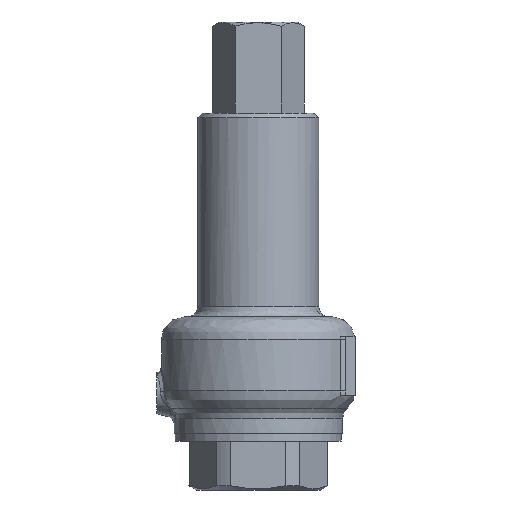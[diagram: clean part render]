
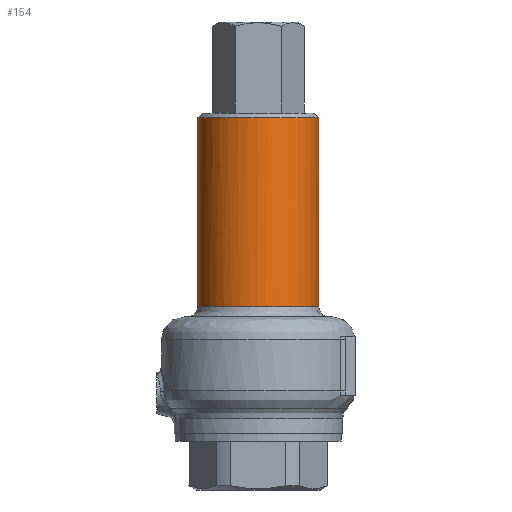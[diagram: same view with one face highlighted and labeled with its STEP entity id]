
A CAD part, left-side view. The second image highlights one B-rep face of the part: STEP entity #154.
In plain terms, the highlighted cylindrical face has radius 26.5 mm (diameter 53 mm), a partial arc.
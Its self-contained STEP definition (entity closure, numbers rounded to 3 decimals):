
#154=ADVANCED_FACE('',(#965),#964,.T.);
#964=CYLINDRICAL_SURFACE('',#2627,26.5);
#965=FACE_OUTER_BOUND('',#2628,.T.);
#2624=CARTESIAN_POINT('',(0.,140.5,0.));
#2625=DIRECTION('',(0.,-1.,0.));
#2626=DIRECTION('',(0.,0.,-1.));
#2627=AXIS2_PLACEMENT_3D('',#2624,#2625,#2626);
#2628=EDGE_LOOP('',(#3177,#3178,#3179,#3180));
#3177=ORIENTED_EDGE('',*,*,#3451,.T.);
#3178=ORIENTED_EDGE('',*,*,#3448,.T.);
#3179=ORIENTED_EDGE('',*,*,#3406,.T.);
#3180=ORIENTED_EDGE('',*,*,#3450,.F.);
#3406=EDGE_CURVE('',#4574,#4567,#4575,.T.);
#3448=EDGE_CURVE('',#4848,#4574,#4849,.T.);
#3450=EDGE_CURVE('',#4855,#4567,#4862,.T.);
#3451=EDGE_CURVE('',#4855,#4848,#4868,.T.);
#4567=VERTEX_POINT('',#6253);
#4574=VERTEX_POINT('',#6257);
#4575=(BOUNDED_CURVE() B_SPLINE_CURVE(2,(#6258,#6259,#6260,#6261,#6262),.UNSPECIFIED.,.F.,.F.) B_SPLINE_CURVE_WITH_KNOTS((3,2,3),(0.,0.5,1.),.UNSPECIFIED.) CURVE() GEOMETRIC_REPRESENTATION_ITEM() RATIONAL_B_SPLINE_CURVE((1.,0.707,1.,0.707,1.)) REPRESENTATION_ITEM('') );
#4848=VERTEX_POINT('',#6542);
#4849=(BOUNDED_CURVE() B_SPLINE_CURVE(1,(#6543,#6544),.UNSPECIFIED.,.F.,.F.) B_SPLINE_CURVE_WITH_KNOTS((2,2),(0.083,0.917),.UNSPECIFIED.) CURVE() GEOMETRIC_REPRESENTATION_ITEM() RATIONAL_B_SPLINE_CURVE((1.,1.)) REPRESENTATION_ITEM('') );
#4855=VERTEX_POINT('',#6545);
#4862=(BOUNDED_CURVE() B_SPLINE_CURVE(1,(#6550,#6551),.UNSPECIFIED.,.F.,.F.) B_SPLINE_CURVE_WITH_KNOTS((2,2),(0.083,0.917),.UNSPECIFIED.) CURVE() GEOMETRIC_REPRESENTATION_ITEM() RATIONAL_B_SPLINE_CURVE((0.75,0.75)) REPRESENTATION_ITEM('') );
#4868=CIRCLE('',#6555,26.5);
#6253=CARTESIAN_POINT('',(0.,16.5,26.5));
#6257=CARTESIAN_POINT('',(0.,16.5,-26.5));
#6258=CARTESIAN_POINT('',(0.,16.5,-26.5));
#6259=CARTESIAN_POINT('',(-26.496,16.5,-26.5));
#6260=CARTESIAN_POINT('',(-26.5,16.5,-0.004));
#6261=CARTESIAN_POINT('',(-26.504,16.5,26.492));
#6262=CARTESIAN_POINT('',(0.,16.5,26.5));
#6542=CARTESIAN_POINT('',(0.,99.5,-26.5));
#6543=CARTESIAN_POINT('',(0.,99.5,-26.5));
#6544=CARTESIAN_POINT('',(0.,16.5,-26.5));
#6545=CARTESIAN_POINT('',(0.,99.5,26.5));
#6550=CARTESIAN_POINT('',(0.,99.5,26.5));
#6551=CARTESIAN_POINT('',(0.,16.5,26.5));
#6552=CARTESIAN_POINT('',(0.,99.5,0.));
#6553=DIRECTION('',(0.,-1.,0.));
#6554=DIRECTION('',(0.,0.,1.));
#6555=AXIS2_PLACEMENT_3D('',#6552,#6553,#6554);
